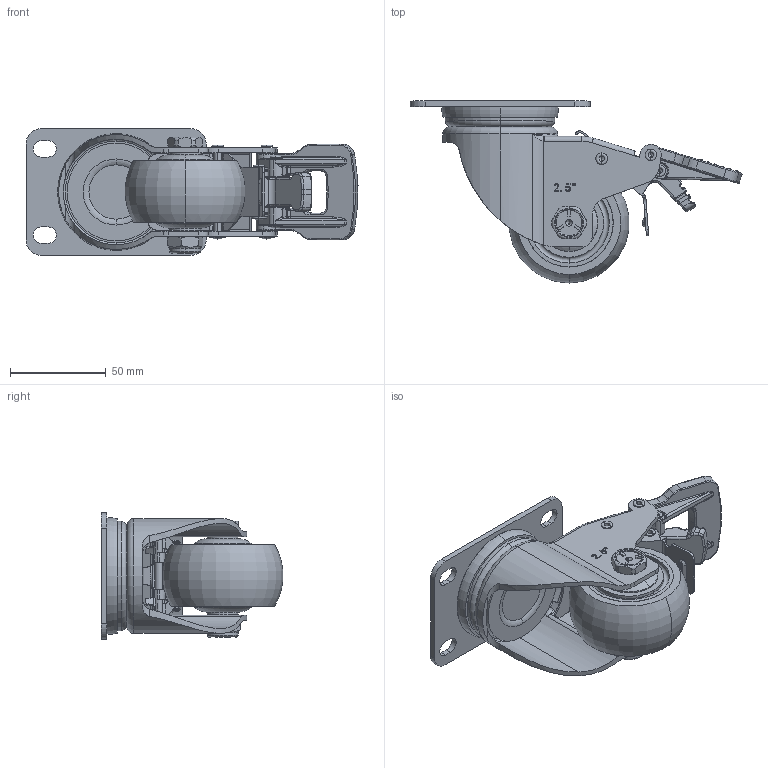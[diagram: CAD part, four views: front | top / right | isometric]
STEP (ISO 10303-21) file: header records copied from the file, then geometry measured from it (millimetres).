
FILE_DESCRIPTION (( 'STEP AP203' ), '1' );
FILE_NAME ('2.5寸平底万向刹车.STEP', '2024-03-19T03:32:55', ( '微软用户' ), ( '微软中国' ), 'SwSTEP 2.0', 'SolidWorks 2008', '' );
FILE_SCHEMA (( 'CONFIG_CONTROL_DESIGN' ));
Length unit declared in the file: millimetre
Products named in the file (13): 2.5渡す菁勀砃价陬; 解刹手柄OFF   B_默认; 刹车手柄ON_默认; 底板_默认; 中型2.5寸轮_默认; 2023-3-8  中型2.5寸（AB刹）支架B_默认; 3.9｡ﾁ49ﾎｲｿﾗｶ､_ﾄｬﾈﾏ; 3.9｡ﾁ39ﾎｲｿﾗｶ､_ﾄｬﾈﾏ; 3.9｡ﾁ30ﾎｲｿﾗｶ､_ﾄｬﾈﾏ; 40.2mm中型中管_默认; M10-55蹟裝; M10蹟譫; 2023-3-15   2.5寸刹车片 B_默认
Assembly tree (13 placements, depth 2):
  2.5渡す菁勀砃价陬
    3.9｡ﾁ49ﾎｲｿﾗｶ､_ﾄｬﾈﾏ  x2
    3.9｡ﾁ39ﾎｲｿﾗｶ､_ﾄｬﾈﾏ
    底板_默认
    3.9｡ﾁ30ﾎｲｿﾗｶ､_ﾄｬﾈﾏ
    2023-3-8  中型2.5寸（AB刹）支架B_默认
    中型2.5寸轮_默认
    刹车手柄ON_默认
    M10蹟譫
    2023-3-15   2.5寸刹车片 B_默认
    解刹手柄OFF   B_默认
    M10-55蹟裝
    40.2mm中型中管_默认
Bounding box: 173.24 x 94.92 x 66 mm (x, y, z)
Volume: 207632.9 mm3; surface area: 86459.2 mm2
Topology: 13 solids, 13 shells, 1380 faces, 3450 edges, 2119 vertices
Faces by surface type: cylinder 543, plane 381, bspline 302, torus 106, cone 34, sphere 14
Entity records: 56435 total; most frequent: CARTESIAN_POINT 24944, ORIENTED_EDGE 6758, DIRECTION 5675, EDGE_CURVE 3379, AXIS2_PLACEMENT_3D 2105, VERTEX_POINT 2097, EDGE_LOOP 1470, LINE 1465
